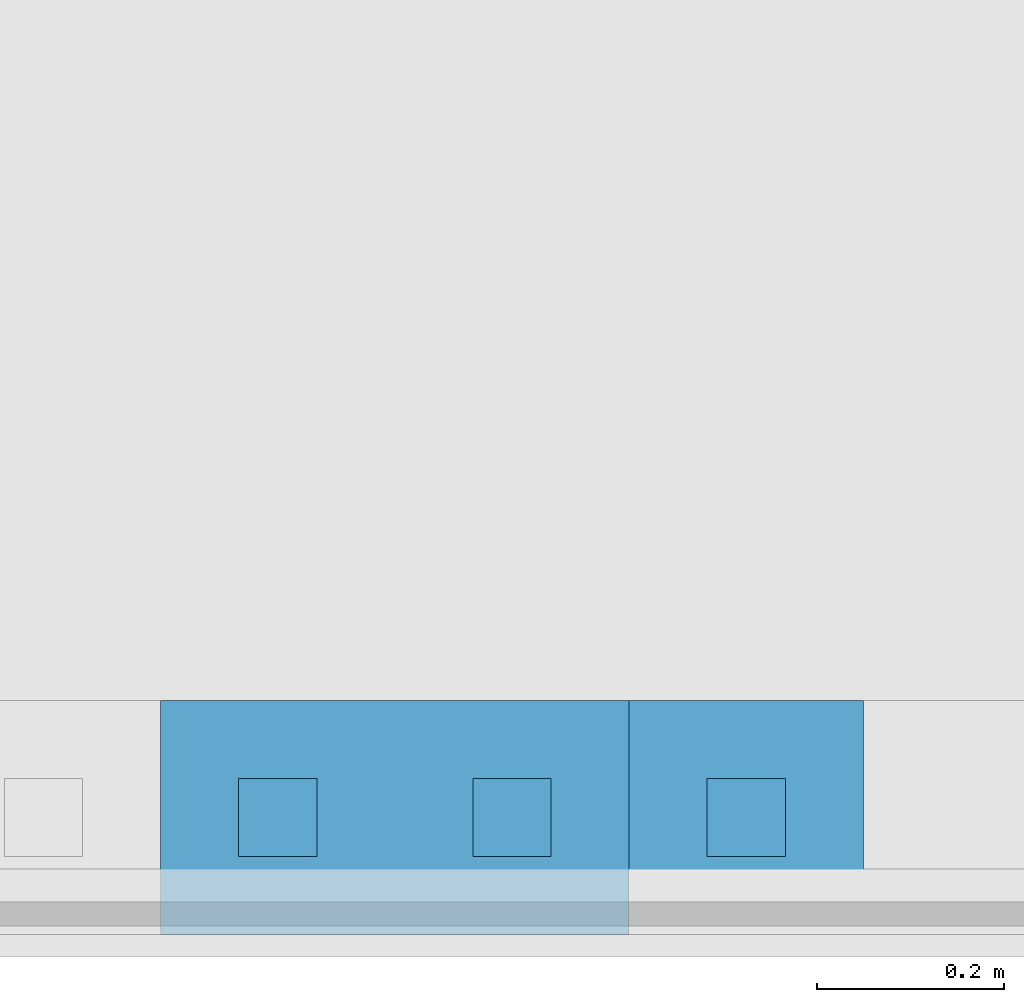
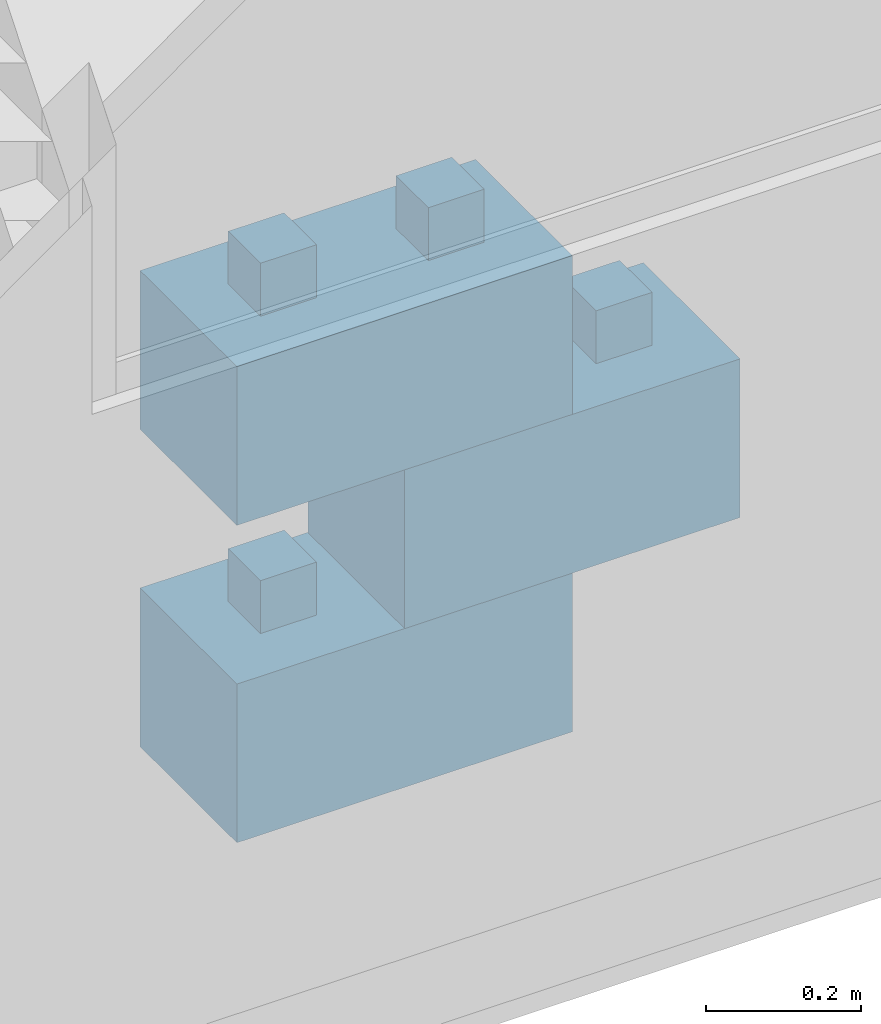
# One storey, part 7 of 9: 3 walls.
"""IFC4 building model written with IfcOpenShell, lengths in centimetres."""

from ifc_helpers import new_model, entity, si_unit, converted_unit, direction, frame, origin, place, context, subcontext, project, spatial, indexed_curve, outline, extrude, material, type_object, element, save


model = new_model("IFC4")

# Units and contexts
model_context = context("Model", 3, precision=0.001, world=origin(), true_north=direction((0.0, 1.0)))
body_context = subcontext(model_context, "Body", "Model", "MODEL_VIEW")
ifc_project = project(units=[si_unit("LENGTHUNIT", "METRE", prefix="CENTI"), si_unit("AREAUNIT", "SQUARE_METRE"), si_unit("VOLUMEUNIT", "CUBIC_METRE"), converted_unit("PLANEANGLEUNIT", "DEGREE", entity("IfcPlaneAngleMeasure", 0.017453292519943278), si_unit("PLANEANGLEUNIT", "RADIAN"), dimensions=[0, 0, 0, 0, 0, 0, 0])], contexts=[model_context])

# Site, building, storey
site_placement = place(None, origin())
site = spatial("IfcSite", under=ifc_project, at=site_placement, Name="Default", CompositionType="ELEMENT")
building_placement = place(site_placement, origin())
building = spatial("IfcBuilding", under=site, at=building_placement, CompositionType="ELEMENT")
storey_placement = place(building_placement, frame((0.0, 0.0, -4.0)))
storey = spatial("IfcBuildingStorey", under=building, at=storey_placement, Name="L00__ABOVE Slab", CompositionType="ELEMENT", Elevation=-4.000000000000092)

# Walls
ifc_material = material(Name="Miscellaneous__Timber Block__Triqbriq, X", Category="Miscellaneous")
wall_type = type_object("IfcWallType", Name="Columns : wll_s__TIMBER BLOCK__Triqbriq, Full Width__wp : WS25", PredefinedType="SOLIDWALL", material=ifc_material)
wall_1_placement = place(storey_placement, frame((3031.828914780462, 2128.520030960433, 75.0)))
element("IfcWall", 1, at=wall_1_placement, inside=storey, type_object=wall_type, material=ifc_material, Name="Columns : wll_s__TIMBER BLOCK__Triqbriq, Full Width__wp : WS25", PredefinedType="SOLIDWALL", context=body_context, shape_type="SweptSolid", body=[
    extrude(outline(indexed_curve([(-4.166666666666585, -4.166666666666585), (4.166666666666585, -4.166666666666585), (4.166666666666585, 4.166666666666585), (-4.166666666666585, 4.166666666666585), (-4.166666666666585, -4.166666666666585)], self_intersect=False)), frame((37.50000000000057, 12.500000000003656, 16.666666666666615), z_axis=(0.0, 0.0, 1.0), x_axis=(0.0, 1.0, 0.0)), (0.0, 0.0, 1.0), 16.66666666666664),
    extrude(outline(indexed_curve([(-4.166666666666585, -4.166666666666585), (4.166666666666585, -4.166666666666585), (4.166666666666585, 4.166666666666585), (-4.166666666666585, 4.166666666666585), (-4.166666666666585, -4.166666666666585)], self_intersect=False)), frame((12.500000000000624, 12.500000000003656, 16.666666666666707), z_axis=(0.0, 0.0, 1.0), x_axis=(0.0, 1.0, 0.0)), (0.0, 0.0, 1.0), 16.66666666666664),
    extrude(outline(indexed_curve([(-4.166666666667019, -4.166666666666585), (4.166666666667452, -4.166666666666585), (4.166666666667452, 4.166666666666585), (-4.166666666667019, 4.166666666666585), (-4.166666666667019, -4.166666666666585)], self_intersect=False)), frame((45.83333333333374, 20.833333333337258, 8.333333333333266), z_axis=(0.0, 0.0, 1.0), x_axis=(0.0, 1.0, 0.0)), (0.0, 0.0, 1.0), 8.333333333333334),
    extrude(outline(indexed_curve([(-4.166666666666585, -4.166666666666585), (4.166666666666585, -4.166666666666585), (4.166666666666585, 4.166666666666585), (-4.166666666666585, 4.166666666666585), (-4.166666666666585, -4.166666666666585)], self_intersect=False)), frame((45.83333333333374, 4.166666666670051, 8.333333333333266), z_axis=(0.0, 0.0, 1.0), x_axis=(0.0, 1.0, 0.0)), (0.0, 0.0, 1.0), 8.333333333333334),
    extrude(outline(indexed_curve([(-4.166666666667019, -4.166666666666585), (4.166666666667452, -4.166666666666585), (4.166666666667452, 4.166666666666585), (-4.166666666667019, 4.166666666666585), (-4.166666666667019, -4.166666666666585)], self_intersect=False)), frame((4.166666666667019, 20.833333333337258, 8.333333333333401), z_axis=(0.0, 0.0, 1.0), x_axis=(0.0, 1.0, 0.0)), (0.0, 0.0, 1.0), 8.333333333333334),
    extrude(outline(indexed_curve([(-4.166666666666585, -4.166666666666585), (4.166666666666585, -4.166666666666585), (4.166666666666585, 4.166666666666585), (-4.166666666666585, 4.166666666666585), (-4.166666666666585, -4.166666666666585)], self_intersect=False)), frame((4.166666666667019, 4.166666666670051, 8.333333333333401), z_axis=(0.0, 0.0, 1.0), x_axis=(0.0, 1.0, 0.0)), (0.0, 0.0, 1.0), 8.333333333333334),
    extrude(outline(indexed_curve([(-4.166666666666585, -8.33333333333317), (4.166666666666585, -8.33333333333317), (4.166666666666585, 8.333333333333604), (-4.166666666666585, 8.333333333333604), (-4.166666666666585, -8.33333333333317)], self_intersect=False)), frame((25.0, 4.166666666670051, 8.333333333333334), z_axis=(0.0, 0.0, 1.0), x_axis=(0.0, 1.0, 0.0)), (0.0, 0.0, 1.0), 8.333333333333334),
    extrude(outline(indexed_curve([(-4.166666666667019, -8.33333333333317), (4.166666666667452, -8.33333333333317), (4.166666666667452, 8.333333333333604), (-4.166666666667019, 8.333333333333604), (-4.166666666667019, -8.33333333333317)], self_intersect=False)), frame((25.0, 20.833333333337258, 8.333333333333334), z_axis=(0.0, 0.0, 1.0), x_axis=(0.0, 1.0, 0.0)), (0.0, 0.0, 1.0), 8.333333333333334),
    extrude(outline(indexed_curve([(-4.166666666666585, -24.999999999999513), (4.166666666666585, -24.999999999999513), (4.166666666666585, 25.00000000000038), (-4.166666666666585, 25.00000000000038), (-4.166666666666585, -24.999999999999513)], self_intersect=False)), frame((25.0, 12.500000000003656, 8.333333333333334), z_axis=(0.0, 0.0, 1.0), x_axis=(0.0, 1.0, 0.0)), (0.0, 0.0, 1.0), 8.333333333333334),
    extrude(outline(indexed_curve([(-12.500000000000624, -4.166666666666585), (12.50000000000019, -4.166666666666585), (12.50000000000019, 4.166666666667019), (-12.500000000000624, 4.166666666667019), (-12.500000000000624, -4.166666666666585)], self_intersect=False)), frame((29.166666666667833, 12.50000000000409, 0.0), z_axis=(0.0, 0.0, 1.0), x_axis=(0.0, 1.0, 0.0)), (0.0, 0.0, 1.0), 8.333333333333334),
    extrude(outline(indexed_curve([(-12.500000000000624, -4.166666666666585), (12.50000000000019, -4.166666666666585), (12.50000000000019, 4.166666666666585), (-12.500000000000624, 4.166666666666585), (-12.500000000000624, -4.166666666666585)], self_intersect=False)), frame((20.833333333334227, 12.50000000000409, 0.0), z_axis=(0.0, 0.0, 1.0), x_axis=(0.0, 1.0, 0.0)), (0.0, 0.0, 1.0), 8.333333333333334),
    extrude(outline(indexed_curve([(-12.500000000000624, -4.166666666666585), (12.50000000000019, -4.166666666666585), (12.50000000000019, 4.166666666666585), (-12.500000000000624, 4.166666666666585), (-12.500000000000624, -4.166666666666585)], self_intersect=False)), frame((45.833333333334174, 12.50000000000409, 0.0), z_axis=(0.0, 0.0, 1.0), x_axis=(0.0, 1.0, 0.0)), (0.0, 0.0, 1.0), 8.333333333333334),
    extrude(outline(indexed_curve([(-12.500000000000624, -4.166666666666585), (12.50000000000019, -4.166666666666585), (12.50000000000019, 4.166666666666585), (-12.500000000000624, 4.166666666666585), (-12.500000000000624, -4.166666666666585)], self_intersect=False)), frame((4.166666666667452, 12.50000000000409, 0.0), z_axis=(0.0, 0.0, 1.0), x_axis=(0.0, 1.0, 0.0)), (0.0, 0.0, 1.0), 8.333333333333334),
    extrude(outline(indexed_curve([(-4.166666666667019, -4.166666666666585), (4.166666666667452, -4.166666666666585), (4.166666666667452, 4.166666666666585), (-4.166666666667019, 4.166666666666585), (-4.166666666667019, -4.166666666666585)], self_intersect=False)), frame((37.500000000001, 20.833333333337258, 0.0), z_axis=(0.0, 0.0, 1.0), x_axis=(0.0, 1.0, 0.0)), (0.0, 0.0, 1.0), 24.999999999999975),
    extrude(outline(indexed_curve([(-4.166666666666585, -4.166666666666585), (4.166666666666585, -4.166666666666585), (4.166666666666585, 4.166666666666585), (-4.166666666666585, 4.166666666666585), (-4.166666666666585, -4.166666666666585)], self_intersect=False)), frame((37.500000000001, 4.166666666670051, 0.0), z_axis=(0.0, 0.0, 1.0), x_axis=(0.0, 1.0, 0.0)), (0.0, 0.0, 1.0), 24.999999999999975),
    extrude(outline(indexed_curve([(-4.166666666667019, -4.166666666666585), (4.166666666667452, -4.166666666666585), (4.166666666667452, 4.166666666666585), (-4.166666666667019, 4.166666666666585), (-4.166666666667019, -4.166666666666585)], self_intersect=False)), frame((12.500000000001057, 20.833333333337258, 0.0), z_axis=(0.0, 0.0, 1.0), x_axis=(0.0, 1.0, 0.0)), (0.0, 0.0, 1.0), 24.999999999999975),
    extrude(outline(indexed_curve([(-4.166666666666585, -4.166666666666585), (4.166666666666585, -4.166666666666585), (4.166666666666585, 4.166666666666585), (-4.166666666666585, 4.166666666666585), (-4.166666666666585, -4.166666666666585)], self_intersect=False)), frame((12.500000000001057, 4.166666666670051, 0.0), z_axis=(0.0, 0.0, 1.0), x_axis=(0.0, 1.0, 0.0)), (0.0, 0.0, 1.0), 24.999999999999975),
    extrude(outline(indexed_curve([(-12.500000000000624, -4.166666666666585), (12.50000000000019, -4.166666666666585), (12.50000000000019, 4.166666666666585), (-12.500000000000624, 4.166666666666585), (-12.500000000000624, -4.166666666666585)], self_intersect=False)), frame((45.83333333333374, 12.50000000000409, 16.666666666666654), z_axis=(0.0, 0.0, 1.0), x_axis=(0.0, 1.0, 0.0)), (0.0, 0.0, 1.0), 8.333333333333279),
    extrude(outline(indexed_curve([(-12.500000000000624, -4.166666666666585), (12.50000000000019, -4.166666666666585), (12.50000000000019, 4.166666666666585), (-12.500000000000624, 4.166666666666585), (-12.500000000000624, -4.166666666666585)], self_intersect=False)), frame((29.1666666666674, 12.50000000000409, 16.666666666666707), z_axis=(0.0, 0.0, 1.0), x_axis=(0.0, 1.0, 0.0)), (0.0, 0.0, 1.0), 8.333333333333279),
    extrude(outline(indexed_curve([(-12.500000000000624, -4.166666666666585), (12.50000000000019, -4.166666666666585), (12.50000000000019, 4.166666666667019), (-12.500000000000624, 4.166666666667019), (-12.500000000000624, -4.166666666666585)], self_intersect=False)), frame((20.833333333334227, 12.50000000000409, 16.66666666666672), z_axis=(0.0, 0.0, 1.0), x_axis=(0.0, 1.0, 0.0)), (0.0, 0.0, 1.0), 8.333333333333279),
    extrude(outline(indexed_curve([(-12.500000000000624, -4.166666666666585), (12.50000000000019, -4.166666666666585), (12.50000000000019, 4.166666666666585), (-12.500000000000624, 4.166666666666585), (-12.500000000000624, -4.166666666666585)], self_intersect=False)), frame((4.166666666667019, 12.50000000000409, 16.666666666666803), z_axis=(0.0, 0.0, 1.0), x_axis=(0.0, 1.0, 0.0)), (0.0, 0.0, 1.0), 8.333333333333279),
])
wall_2_placement = place(storey_placement, frame((3031.828914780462, 2128.520030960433, 25.0)))
element("IfcWall", 2, at=wall_2_placement, inside=storey, type_object=wall_type, material=ifc_material, Name="Columns : wll_s__TIMBER BLOCK__Triqbriq, Full Width__wp : WS25", PredefinedType="SOLIDWALL", context=body_context, shape_type="SweptSolid", body=[
    extrude(outline(indexed_curve([(-4.166666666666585, -4.166666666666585), (4.166666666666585, -4.166666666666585), (4.166666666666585, 4.166666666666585), (-4.166666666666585, 4.166666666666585), (-4.166666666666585, -4.166666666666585)], self_intersect=False)), frame((37.50000000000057, 12.500000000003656, 16.666666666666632), z_axis=(0.0, 0.0, 1.0), x_axis=(0.0, 1.0, 0.0)), (0.0, 0.0, 1.0), 16.666666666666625),
    extrude(outline(indexed_curve([(-4.166666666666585, -4.166666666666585), (4.166666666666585, -4.166666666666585), (4.166666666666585, 4.166666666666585), (-4.166666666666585, 4.166666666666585), (-4.166666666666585, -4.166666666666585)], self_intersect=False)), frame((12.500000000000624, 12.500000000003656, 16.666666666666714), z_axis=(0.0, 0.0, 1.0), x_axis=(0.0, 1.0, 0.0)), (0.0, 0.0, 1.0), 16.666666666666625),
    extrude(outline(indexed_curve([(-4.166666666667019, -4.166666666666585), (4.166666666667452, -4.166666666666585), (4.166666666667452, 4.166666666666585), (-4.166666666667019, 4.166666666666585), (-4.166666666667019, -4.166666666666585)], self_intersect=False)), frame((45.83333333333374, 20.833333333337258, 8.333333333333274), z_axis=(0.0, 0.0, 1.0), x_axis=(0.0, 1.0, 0.0)), (0.0, 0.0, 1.0), 8.333333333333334),
    extrude(outline(indexed_curve([(-4.166666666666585, -4.166666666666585), (4.166666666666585, -4.166666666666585), (4.166666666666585, 4.166666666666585), (-4.166666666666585, 4.166666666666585), (-4.166666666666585, -4.166666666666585)], self_intersect=False)), frame((45.83333333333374, 4.166666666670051, 8.333333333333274), z_axis=(0.0, 0.0, 1.0), x_axis=(0.0, 1.0, 0.0)), (0.0, 0.0, 1.0), 8.333333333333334),
    extrude(outline(indexed_curve([(-4.166666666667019, -4.166666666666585), (4.166666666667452, -4.166666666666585), (4.166666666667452, 4.166666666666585), (-4.166666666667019, 4.166666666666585), (-4.166666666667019, -4.166666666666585)], self_intersect=False)), frame((4.166666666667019, 20.833333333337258, 8.333333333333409), z_axis=(0.0, 0.0, 1.0), x_axis=(0.0, 1.0, 0.0)), (0.0, 0.0, 1.0), 8.333333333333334),
    extrude(outline(indexed_curve([(-4.166666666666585, -4.166666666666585), (4.166666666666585, -4.166666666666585), (4.166666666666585, 4.166666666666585), (-4.166666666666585, 4.166666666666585), (-4.166666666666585, -4.166666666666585)], self_intersect=False)), frame((4.166666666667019, 4.166666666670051, 8.333333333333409), z_axis=(0.0, 0.0, 1.0), x_axis=(0.0, 1.0, 0.0)), (0.0, 0.0, 1.0), 8.333333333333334),
    extrude(outline(indexed_curve([(-4.166666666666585, -8.33333333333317), (4.166666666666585, -8.33333333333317), (4.166666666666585, 8.333333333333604), (-4.166666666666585, 8.333333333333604), (-4.166666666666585, -8.33333333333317)], self_intersect=False)), frame((25.0, 4.166666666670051, 8.333333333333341), z_axis=(0.0, 0.0, 1.0), x_axis=(0.0, 1.0, 0.0)), (0.0, 0.0, 1.0), 8.333333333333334),
    extrude(outline(indexed_curve([(-4.166666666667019, -8.33333333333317), (4.166666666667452, -8.33333333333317), (4.166666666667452, 8.333333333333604), (-4.166666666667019, 8.333333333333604), (-4.166666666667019, -8.33333333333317)], self_intersect=False)), frame((25.0, 20.833333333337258, 8.333333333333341), z_axis=(0.0, 0.0, 1.0), x_axis=(0.0, 1.0, 0.0)), (0.0, 0.0, 1.0), 8.333333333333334),
    extrude(outline(indexed_curve([(-4.166666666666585, -24.999999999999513), (4.166666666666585, -24.999999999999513), (4.166666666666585, 25.00000000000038), (-4.166666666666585, 25.00000000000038), (-4.166666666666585, -24.999999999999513)], self_intersect=False)), frame((25.0, 12.500000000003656, 8.333333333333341), z_axis=(0.0, 0.0, 1.0), x_axis=(0.0, 1.0, 0.0)), (0.0, 0.0, 1.0), 8.333333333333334),
    extrude(outline(indexed_curve([(-12.500000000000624, -4.166666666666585), (12.50000000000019, -4.166666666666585), (12.50000000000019, 4.166666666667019), (-12.500000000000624, 4.166666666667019), (-12.500000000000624, -4.166666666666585)], self_intersect=False)), frame((29.166666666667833, 12.50000000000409, 0.0), z_axis=(0.0, 0.0, 1.0), x_axis=(0.0, 1.0, 0.0)), (0.0, 0.0, 1.0), 8.333333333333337),
    extrude(outline(indexed_curve([(-12.500000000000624, -4.166666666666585), (12.50000000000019, -4.166666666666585), (12.50000000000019, 4.166666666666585), (-12.500000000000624, 4.166666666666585), (-12.500000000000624, -4.166666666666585)], self_intersect=False)), frame((20.833333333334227, 12.50000000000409, 0.0), z_axis=(0.0, 0.0, 1.0), x_axis=(0.0, 1.0, 0.0)), (0.0, 0.0, 1.0), 8.333333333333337),
    extrude(outline(indexed_curve([(-12.500000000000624, -4.166666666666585), (12.50000000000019, -4.166666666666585), (12.50000000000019, 4.166666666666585), (-12.500000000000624, 4.166666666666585), (-12.500000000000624, -4.166666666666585)], self_intersect=False)), frame((45.833333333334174, 12.50000000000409, 0.0), z_axis=(0.0, 0.0, 1.0), x_axis=(0.0, 1.0, 0.0)), (0.0, 0.0, 1.0), 8.333333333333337),
    extrude(outline(indexed_curve([(-12.500000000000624, -4.166666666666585), (12.50000000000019, -4.166666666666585), (12.50000000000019, 4.166666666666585), (-12.500000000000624, 4.166666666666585), (-12.500000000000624, -4.166666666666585)], self_intersect=False)), frame((4.166666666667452, 12.50000000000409, 0.0), z_axis=(0.0, 0.0, 1.0), x_axis=(0.0, 1.0, 0.0)), (0.0, 0.0, 1.0), 8.333333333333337),
    extrude(outline(indexed_curve([(-4.166666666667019, -4.166666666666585), (4.166666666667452, -4.166666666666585), (4.166666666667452, 4.166666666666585), (-4.166666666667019, 4.166666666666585), (-4.166666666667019, -4.166666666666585)], self_intersect=False)), frame((37.500000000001, 20.833333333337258, 0.0), z_axis=(0.0, 0.0, 1.0), x_axis=(0.0, 1.0, 0.0)), (0.0, 0.0, 1.0), 24.999999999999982),
    extrude(outline(indexed_curve([(-4.166666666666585, -4.166666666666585), (4.166666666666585, -4.166666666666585), (4.166666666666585, 4.166666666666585), (-4.166666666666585, 4.166666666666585), (-4.166666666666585, -4.166666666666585)], self_intersect=False)), frame((37.500000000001, 4.166666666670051, 0.0), z_axis=(0.0, 0.0, 1.0), x_axis=(0.0, 1.0, 0.0)), (0.0, 0.0, 1.0), 24.999999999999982),
    extrude(outline(indexed_curve([(-4.166666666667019, -4.166666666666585), (4.166666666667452, -4.166666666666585), (4.166666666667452, 4.166666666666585), (-4.166666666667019, 4.166666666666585), (-4.166666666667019, -4.166666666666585)], self_intersect=False)), frame((12.500000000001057, 20.833333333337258, 0.0), z_axis=(0.0, 0.0, 1.0), x_axis=(0.0, 1.0, 0.0)), (0.0, 0.0, 1.0), 24.999999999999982),
    extrude(outline(indexed_curve([(-4.166666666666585, -4.166666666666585), (4.166666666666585, -4.166666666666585), (4.166666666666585, 4.166666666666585), (-4.166666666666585, 4.166666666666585), (-4.166666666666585, -4.166666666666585)], self_intersect=False)), frame((12.500000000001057, 4.166666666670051, 0.0), z_axis=(0.0, 0.0, 1.0), x_axis=(0.0, 1.0, 0.0)), (0.0, 0.0, 1.0), 24.999999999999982),
    extrude(outline(indexed_curve([(-12.500000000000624, -4.166666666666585), (12.50000000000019, -4.166666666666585), (12.50000000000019, 4.166666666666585), (-12.500000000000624, 4.166666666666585), (-12.500000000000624, -4.166666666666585)], self_intersect=False)), frame((45.83333333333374, 12.50000000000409, 16.666666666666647), z_axis=(0.0, 0.0, 1.0), x_axis=(0.0, 1.0, 0.0)), (0.0, 0.0, 1.0), 8.333333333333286),
    extrude(outline(indexed_curve([(-12.500000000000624, -4.166666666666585), (12.50000000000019, -4.166666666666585), (12.50000000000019, 4.166666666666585), (-12.500000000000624, 4.166666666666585), (-12.500000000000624, -4.166666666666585)], self_intersect=False)), frame((29.1666666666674, 12.50000000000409, 16.6666666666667), z_axis=(0.0, 0.0, 1.0), x_axis=(0.0, 1.0, 0.0)), (0.0, 0.0, 1.0), 8.333333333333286),
    extrude(outline(indexed_curve([(-12.500000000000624, -4.166666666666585), (12.50000000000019, -4.166666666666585), (12.50000000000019, 4.166666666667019), (-12.500000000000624, 4.166666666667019), (-12.500000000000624, -4.166666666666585)], self_intersect=False)), frame((20.833333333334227, 12.50000000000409, 16.66666666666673), z_axis=(0.0, 0.0, 1.0), x_axis=(0.0, 1.0, 0.0)), (0.0, 0.0, 1.0), 8.333333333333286),
    extrude(outline(indexed_curve([(-12.500000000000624, -4.166666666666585), (12.50000000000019, -4.166666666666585), (12.50000000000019, 4.166666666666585), (-12.500000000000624, 4.166666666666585), (-12.500000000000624, -4.166666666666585)], self_intersect=False)), frame((4.166666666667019, 12.50000000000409, 16.66666666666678), z_axis=(0.0, 0.0, 1.0), x_axis=(0.0, 1.0, 0.0)), (0.0, 0.0, 1.0), 8.333333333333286),
])
wall_3_placement = place(storey_placement, frame((3056.8289147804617, 2128.520030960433, 50.0)))
element("IfcWall", 3, at=wall_3_placement, inside=storey, type_object=wall_type, material=ifc_material, Name="Columns : wll_s__TIMBER BLOCK__Triqbriq, Full Width__wp : WS25", PredefinedType="SOLIDWALL", context=body_context, shape_type="SweptSolid", body=[
    extrude(outline(indexed_curve([(-4.166666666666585, -4.166666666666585), (4.166666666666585, -4.166666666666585), (4.166666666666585, 4.166666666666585), (-4.166666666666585, 4.166666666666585), (-4.166666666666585, -4.166666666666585)], self_intersect=False)), frame((37.50000000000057, 12.500000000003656, 16.666666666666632), z_axis=(0.0, 0.0, 1.0), x_axis=(0.0, 1.0, 0.0)), (0.0, 0.0, 1.0), 16.666666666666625),
    extrude(outline(indexed_curve([(-4.166666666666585, -4.166666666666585), (4.166666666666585, -4.166666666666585), (4.166666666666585, 4.166666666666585), (-4.166666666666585, 4.166666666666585), (-4.166666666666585, -4.166666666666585)], self_intersect=False)), frame((12.500000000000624, 12.500000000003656, 16.666666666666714), z_axis=(0.0, 0.0, 1.0), x_axis=(0.0, 1.0, 0.0)), (0.0, 0.0, 1.0), 16.666666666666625),
    extrude(outline(indexed_curve([(-4.166666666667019, -4.166666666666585), (4.166666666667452, -4.166666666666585), (4.166666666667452, 4.166666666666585), (-4.166666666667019, 4.166666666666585), (-4.166666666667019, -4.166666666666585)], self_intersect=False)), frame((45.83333333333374, 20.833333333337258, 8.333333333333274), z_axis=(0.0, 0.0, 1.0), x_axis=(0.0, 1.0, 0.0)), (0.0, 0.0, 1.0), 8.333333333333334),
    extrude(outline(indexed_curve([(-4.166666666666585, -4.166666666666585), (4.166666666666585, -4.166666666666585), (4.166666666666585, 4.166666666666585), (-4.166666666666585, 4.166666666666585), (-4.166666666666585, -4.166666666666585)], self_intersect=False)), frame((45.83333333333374, 4.166666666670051, 8.333333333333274), z_axis=(0.0, 0.0, 1.0), x_axis=(0.0, 1.0, 0.0)), (0.0, 0.0, 1.0), 8.333333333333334),
    extrude(outline(indexed_curve([(-4.166666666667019, -4.166666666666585), (4.166666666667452, -4.166666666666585), (4.166666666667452, 4.166666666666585), (-4.166666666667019, 4.166666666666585), (-4.166666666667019, -4.166666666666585)], self_intersect=False)), frame((4.166666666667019, 20.833333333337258, 8.333333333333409), z_axis=(0.0, 0.0, 1.0), x_axis=(0.0, 1.0, 0.0)), (0.0, 0.0, 1.0), 8.333333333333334),
    extrude(outline(indexed_curve([(-4.166666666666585, -4.166666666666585), (4.166666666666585, -4.166666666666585), (4.166666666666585, 4.166666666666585), (-4.166666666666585, 4.166666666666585), (-4.166666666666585, -4.166666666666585)], self_intersect=False)), frame((4.166666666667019, 4.166666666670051, 8.333333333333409), z_axis=(0.0, 0.0, 1.0), x_axis=(0.0, 1.0, 0.0)), (0.0, 0.0, 1.0), 8.333333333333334),
    extrude(outline(indexed_curve([(-4.166666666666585, -8.33333333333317), (4.166666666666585, -8.33333333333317), (4.166666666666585, 8.333333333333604), (-4.166666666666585, 8.333333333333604), (-4.166666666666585, -8.33333333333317)], self_intersect=False)), frame((25.0, 4.166666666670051, 8.333333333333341), z_axis=(0.0, 0.0, 1.0), x_axis=(0.0, 1.0, 0.0)), (0.0, 0.0, 1.0), 8.333333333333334),
    extrude(outline(indexed_curve([(-4.166666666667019, -8.33333333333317), (4.166666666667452, -8.33333333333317), (4.166666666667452, 8.333333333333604), (-4.166666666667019, 8.333333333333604), (-4.166666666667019, -8.33333333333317)], self_intersect=False)), frame((25.0, 20.833333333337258, 8.333333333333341), z_axis=(0.0, 0.0, 1.0), x_axis=(0.0, 1.0, 0.0)), (0.0, 0.0, 1.0), 8.333333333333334),
    extrude(outline(indexed_curve([(-4.166666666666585, -25.00000000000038), (4.166666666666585, -25.00000000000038), (4.166666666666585, 24.999999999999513), (-4.166666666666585, 24.999999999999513), (-4.166666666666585, -25.00000000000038)], self_intersect=False)), frame((25.0, 12.500000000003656, 8.333333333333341), z_axis=(0.0, 0.0, 1.0), x_axis=(0.0, 1.0, 0.0)), (0.0, 0.0, 1.0), 8.333333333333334),
    extrude(outline(indexed_curve([(-12.500000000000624, -4.166666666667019), (12.50000000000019, -4.166666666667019), (12.50000000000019, 4.166666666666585), (-12.500000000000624, 4.166666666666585), (-12.500000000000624, -4.166666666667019)], self_intersect=False)), frame((29.1666666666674, 12.50000000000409, 0.0), z_axis=(0.0, 0.0, 1.0), x_axis=(0.0, 1.0, 0.0)), (0.0, 0.0, 1.0), 8.333333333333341),
    extrude(outline(indexed_curve([(-12.500000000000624, -4.166666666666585), (12.50000000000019, -4.166666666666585), (12.50000000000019, 4.166666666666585), (-12.500000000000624, 4.166666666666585), (-12.500000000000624, -4.166666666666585)], self_intersect=False)), frame((20.833333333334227, 12.50000000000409, 0.0), z_axis=(0.0, 0.0, 1.0), x_axis=(0.0, 1.0, 0.0)), (0.0, 0.0, 1.0), 8.333333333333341),
    extrude(outline(indexed_curve([(-12.500000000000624, -4.166666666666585), (12.50000000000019, -4.166666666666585), (12.50000000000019, 4.166666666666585), (-12.500000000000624, 4.166666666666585), (-12.500000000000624, -4.166666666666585)], self_intersect=False)), frame((45.833333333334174, 12.50000000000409, 0.0), z_axis=(0.0, 0.0, 1.0), x_axis=(0.0, 1.0, 0.0)), (0.0, 0.0, 1.0), 8.333333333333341),
    extrude(outline(indexed_curve([(-12.500000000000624, -4.166666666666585), (12.50000000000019, -4.166666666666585), (12.50000000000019, 4.166666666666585), (-12.500000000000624, 4.166666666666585), (-12.500000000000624, -4.166666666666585)], self_intersect=False)), frame((4.166666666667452, 12.50000000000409, 0.0), z_axis=(0.0, 0.0, 1.0), x_axis=(0.0, 1.0, 0.0)), (0.0, 0.0, 1.0), 8.333333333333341),
    extrude(outline(indexed_curve([(-4.166666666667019, -4.166666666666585), (4.166666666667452, -4.166666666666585), (4.166666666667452, 4.166666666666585), (-4.166666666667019, 4.166666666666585), (-4.166666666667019, -4.166666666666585)], self_intersect=False)), frame((37.500000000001, 20.833333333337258, 0.0), z_axis=(0.0, 0.0, 1.0), x_axis=(0.0, 1.0, 0.0)), (0.0, 0.0, 1.0), 24.999999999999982),
    extrude(outline(indexed_curve([(-4.166666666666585, -4.166666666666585), (4.166666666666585, -4.166666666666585), (4.166666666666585, 4.166666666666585), (-4.166666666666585, 4.166666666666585), (-4.166666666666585, -4.166666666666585)], self_intersect=False)), frame((37.500000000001, 4.166666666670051, 0.0), z_axis=(0.0, 0.0, 1.0), x_axis=(0.0, 1.0, 0.0)), (0.0, 0.0, 1.0), 24.999999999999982),
    extrude(outline(indexed_curve([(-4.166666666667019, -4.166666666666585), (4.166666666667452, -4.166666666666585), (4.166666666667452, 4.166666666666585), (-4.166666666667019, 4.166666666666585), (-4.166666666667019, -4.166666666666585)], self_intersect=False)), frame((12.500000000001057, 20.833333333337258, 0.0), z_axis=(0.0, 0.0, 1.0), x_axis=(0.0, 1.0, 0.0)), (0.0, 0.0, 1.0), 24.999999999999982),
    extrude(outline(indexed_curve([(-4.166666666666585, -4.166666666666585), (4.166666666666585, -4.166666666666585), (4.166666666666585, 4.166666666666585), (-4.166666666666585, 4.166666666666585), (-4.166666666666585, -4.166666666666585)], self_intersect=False)), frame((12.500000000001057, 4.166666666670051, 0.0), z_axis=(0.0, 0.0, 1.0), x_axis=(0.0, 1.0, 0.0)), (0.0, 0.0, 1.0), 24.999999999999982),
    extrude(outline(indexed_curve([(-12.500000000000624, -4.166666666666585), (12.50000000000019, -4.166666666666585), (12.50000000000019, 4.166666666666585), (-12.500000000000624, 4.166666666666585), (-12.500000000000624, -4.166666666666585)], self_intersect=False)), frame((45.83333333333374, 12.50000000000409, 16.666666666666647), z_axis=(0.0, 0.0, 1.0), x_axis=(0.0, 1.0, 0.0)), (0.0, 0.0, 1.0), 8.333333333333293),
    extrude(outline(indexed_curve([(-12.500000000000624, -4.166666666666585), (12.50000000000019, -4.166666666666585), (12.50000000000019, 4.166666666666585), (-12.500000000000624, 4.166666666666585), (-12.500000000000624, -4.166666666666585)], self_intersect=False)), frame((29.1666666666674, 12.50000000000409, 16.6666666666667), z_axis=(0.0, 0.0, 1.0), x_axis=(0.0, 1.0, 0.0)), (0.0, 0.0, 1.0), 8.333333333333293),
    extrude(outline(indexed_curve([(-12.500000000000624, -4.166666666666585), (12.50000000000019, -4.166666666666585), (12.50000000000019, 4.166666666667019), (-12.500000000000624, 4.166666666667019), (-12.500000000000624, -4.166666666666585)], self_intersect=False)), frame((20.833333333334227, 12.50000000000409, 16.66666666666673), z_axis=(0.0, 0.0, 1.0), x_axis=(0.0, 1.0, 0.0)), (0.0, 0.0, 1.0), 8.333333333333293),
    extrude(outline(indexed_curve([(-12.500000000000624, -4.166666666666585), (12.50000000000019, -4.166666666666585), (12.50000000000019, 4.166666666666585), (-12.500000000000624, 4.166666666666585), (-12.500000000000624, -4.166666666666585)], self_intersect=False)), frame((4.166666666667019, 12.50000000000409, 16.66666666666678), z_axis=(0.0, 0.0, 1.0), x_axis=(0.0, 1.0, 0.0)), (0.0, 0.0, 1.0), 8.333333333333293),
])

save(model, "model.ifc")
